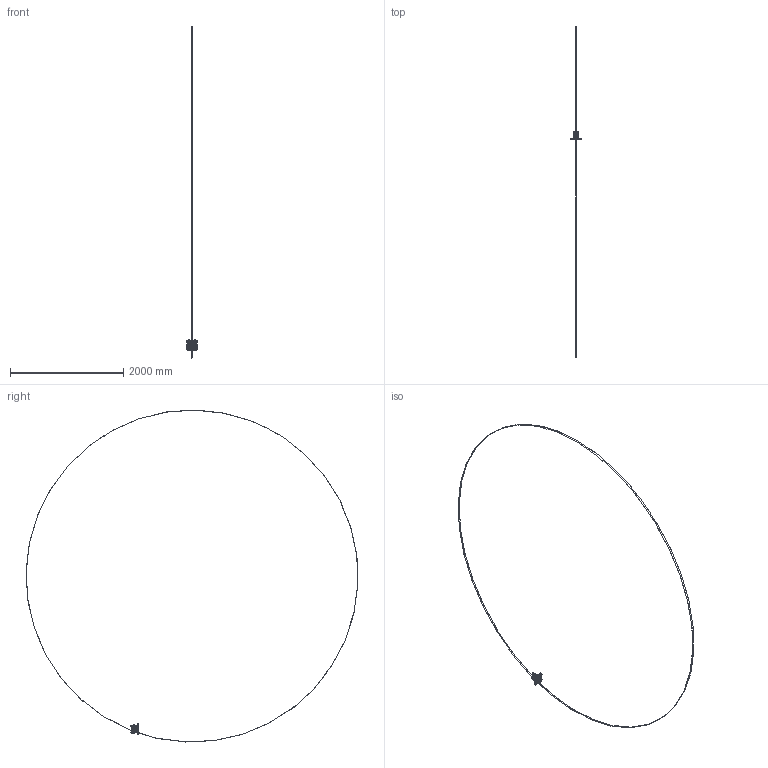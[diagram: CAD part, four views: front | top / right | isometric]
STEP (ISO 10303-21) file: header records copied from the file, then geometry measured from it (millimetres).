
FILE_DESCRIPTION((''),'2;1');
FILE_NAME('PRT0004','2014-12-10T',('rburgess'),('Viking Johnson'),'PRO/ENGINEER BY PARAMETRIC TECHNOLOGY CORPORATION, 2006020','PRO/ENGINEER BY PARAMETRIC TECHNOLOGY CORPORATION, 2006020','');
FILE_SCHEMA(('CONFIG_CONTROL_DESIGN'));
Products named in the file (1): PRT0004
Bounding box: 190.77 x 5853.31 x 5855.45 mm (x, y, z)
Surface area: 763014.8 mm2 (no closed solid volume)
Topology: 0 solids, 0 shells, 3927 faces, 21380 edges, 21094 vertices
Faces by surface type: bspline 3526, torus 341, sphere 60
Entity records: 291144 total; most frequent: CARTESIAN_POINT 101363, DIRECTION 29701, TRIMMED_CURVE 27313, VECTOR 25727, LINE 25727, DEFINITIONAL_REPRESENTATION 20764, PCURVE 20764, COMPOSITE_CURVE_SEGMENT 20764
